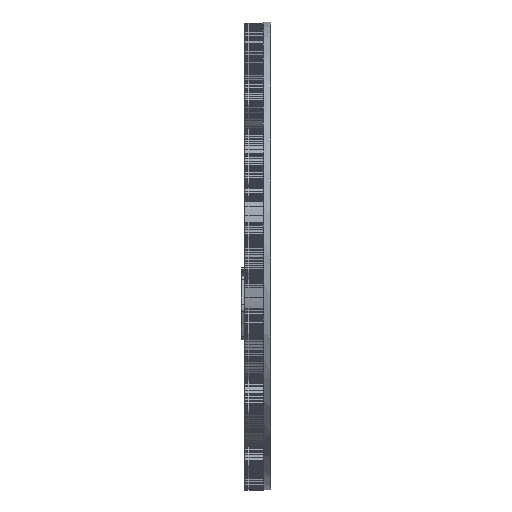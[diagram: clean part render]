
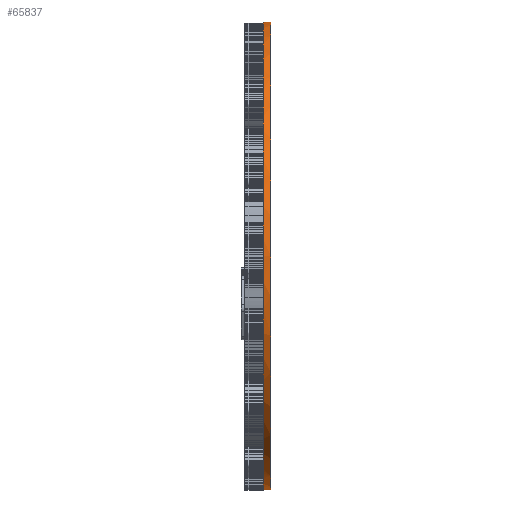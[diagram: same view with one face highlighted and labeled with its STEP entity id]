
A CAD part, left-side view. The second image highlights one B-rep face of the part: STEP entity #65837.
In plain terms, the highlighted cylindrical face has radius 63.25 mm (diameter 126.5 mm), a full revolution.
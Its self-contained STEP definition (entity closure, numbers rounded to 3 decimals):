
#3466=FACE_OUTER_BOUND('',#6824,.T.);
#6824=EDGE_LOOP('',(#50315,#50316,#50317,#50318,#50319,#50320,#50321,#50322,
#50323,#50324,#50325,#50326,#50327,#50328,#50329,#50330,#50331,#50332,#50333,
#50334,#50335,#50336,#50337,#50338));
#9988=CIRCLE('',#69131,63.25);
#9997=CIRCLE('',#69140,63.25);
#9999=CIRCLE('',#69142,63.25);
#10000=CIRCLE('',#69143,63.25);
#10009=CIRCLE('',#69152,63.25);
#10063=CIRCLE('',#69207,63.25);
#10066=CIRCLE('',#69211,63.25);
#10072=CIRCLE('',#69218,63.25);
#10076=CIRCLE('',#69223,63.25);
#10077=CIRCLE('',#69225,63.25);
#10078=CIRCLE('',#69227,63.25);
#10079=CIRCLE('',#69229,63.25);
#10080=CIRCLE('',#69230,63.25);
#10081=CIRCLE('',#69231,63.25);
#10082=CIRCLE('',#69232,63.25);
#10083=CIRCLE('',#69233,63.25);
#10084=CIRCLE('',#69234,63.25);
#10085=CIRCLE('',#69235,63.25);
#10086=CIRCLE('',#69236,63.25);
#10087=CIRCLE('',#69237,63.25);
#10088=CIRCLE('',#69238,63.25);
#10089=CIRCLE('',#69239,63.25);
#14084=LINE('',#99940,#23541);
#23541=VECTOR('',#76640,63.25);
#30162=VERTEX_POINT('',#93938);
#30213=VERTEX_POINT('',#94040);
#30214=VERTEX_POINT('',#94042);
#30566=VERTEX_POINT('',#94746);
#30567=VERTEX_POINT('',#94748);
#30614=VERTEX_POINT('',#94842);
#30615=VERTEX_POINT('',#94844);
#30616=VERTEX_POINT('',#94846);
#31111=VERTEX_POINT('',#95836);
#32948=VERTEX_POINT('',#99512);
#32950=VERTEX_POINT('',#99515);
#33012=VERTEX_POINT('',#99641);
#33014=VERTEX_POINT('',#99644);
#33068=VERTEX_POINT('',#99753);
#33069=VERTEX_POINT('',#99755);
#33071=VERTEX_POINT('',#99760);
#33142=VERTEX_POINT('',#99902);
#33144=VERTEX_POINT('',#99907);
#33151=VERTEX_POINT('',#99921);
#33153=VERTEX_POINT('',#99926);
#33157=VERTEX_POINT('',#99934);
#33158=VERTEX_POINT('',#99938);
#36970=EDGE_CURVE('',#30214,#30213,#9988,.T.);
#37323=EDGE_CURVE('',#30567,#30566,#9997,.T.);
#37371=EDGE_CURVE('',#30615,#30614,#9999,.T.);
#37372=EDGE_CURVE('',#30616,#30615,#10000,.T.);
#37868=EDGE_CURVE('',#30162,#31111,#10009,.T.);
#39706=EDGE_CURVE('',#32950,#32948,#10063,.T.);
#39770=EDGE_CURVE('',#33014,#33012,#10066,.T.);
#39826=EDGE_CURVE('',#33068,#33069,#10072,.T.);
#39899=EDGE_CURVE('',#33071,#33142,#10076,.T.);
#39908=EDGE_CURVE('',#33144,#33151,#10077,.T.);
#39914=EDGE_CURVE('',#33153,#33157,#10078,.T.);
#39915=EDGE_CURVE('',#33158,#33158,#10079,.T.);
#39916=EDGE_CURVE('',#33158,#30615,#14084,.T.);
#39917=EDGE_CURVE('',#33153,#30614,#10080,.T.);
#39918=EDGE_CURVE('',#30567,#33157,#10081,.T.);
#39919=EDGE_CURVE('',#32950,#30566,#10082,.T.);
#39920=EDGE_CURVE('',#33014,#32948,#10083,.T.);
#39921=EDGE_CURVE('',#30214,#33012,#10084,.T.);
#39922=EDGE_CURVE('',#30162,#30213,#10085,.T.);
#39923=EDGE_CURVE('',#33144,#31111,#10086,.T.);
#39924=EDGE_CURVE('',#33071,#33151,#10087,.T.);
#39925=EDGE_CURVE('',#33068,#33142,#10088,.T.);
#39926=EDGE_CURVE('',#30616,#33069,#10089,.T.);
#50315=ORIENTED_EDGE('',*,*,#39915,.F.);
#50316=ORIENTED_EDGE('',*,*,#39916,.T.);
#50317=ORIENTED_EDGE('',*,*,#37371,.T.);
#50318=ORIENTED_EDGE('',*,*,#39917,.F.);
#50319=ORIENTED_EDGE('',*,*,#39914,.T.);
#50320=ORIENTED_EDGE('',*,*,#39918,.F.);
#50321=ORIENTED_EDGE('',*,*,#37323,.T.);
#50322=ORIENTED_EDGE('',*,*,#39919,.F.);
#50323=ORIENTED_EDGE('',*,*,#39706,.T.);
#50324=ORIENTED_EDGE('',*,*,#39920,.F.);
#50325=ORIENTED_EDGE('',*,*,#39770,.T.);
#50326=ORIENTED_EDGE('',*,*,#39921,.F.);
#50327=ORIENTED_EDGE('',*,*,#36970,.T.);
#50328=ORIENTED_EDGE('',*,*,#39922,.F.);
#50329=ORIENTED_EDGE('',*,*,#37868,.T.);
#50330=ORIENTED_EDGE('',*,*,#39923,.F.);
#50331=ORIENTED_EDGE('',*,*,#39908,.T.);
#50332=ORIENTED_EDGE('',*,*,#39924,.F.);
#50333=ORIENTED_EDGE('',*,*,#39899,.T.);
#50334=ORIENTED_EDGE('',*,*,#39925,.F.);
#50335=ORIENTED_EDGE('',*,*,#39826,.T.);
#50336=ORIENTED_EDGE('',*,*,#39926,.F.);
#50337=ORIENTED_EDGE('',*,*,#37372,.T.);
#50338=ORIENTED_EDGE('',*,*,#39916,.F.);
#65549=CYLINDRICAL_SURFACE('',#69228,63.25);
#65837=ADVANCED_FACE('',(#3466),#65549,.T.);
#69131=AXIS2_PLACEMENT_3D('',#94043,#73588,#73589);
#69140=AXIS2_PLACEMENT_3D('',#94749,#73950,#73951);
#69142=AXIS2_PLACEMENT_3D('',#94845,#74000,#74001);
#69143=AXIS2_PLACEMENT_3D('',#94847,#74002,#74003);
#69152=AXIS2_PLACEMENT_3D('',#95838,#74507,#74508);
#69207=AXIS2_PLACEMENT_3D('',#99516,#76401,#76402);
#69211=AXIS2_PLACEMENT_3D('',#99645,#76470,#76471);
#69218=AXIS2_PLACEMENT_3D('',#99757,#76534,#76535);
#69223=AXIS2_PLACEMENT_3D('',#99904,#76613,#76614);
#69225=AXIS2_PLACEMENT_3D('',#99923,#76625,#76626);
#69227=AXIS2_PLACEMENT_3D('',#99936,#76634,#76635);
#69228=AXIS2_PLACEMENT_3D('',#99937,#76636,#76637);
#69229=AXIS2_PLACEMENT_3D('',#99939,#76638,#76639);
#69230=AXIS2_PLACEMENT_3D('',#99941,#76641,#76642);
#69231=AXIS2_PLACEMENT_3D('',#99942,#76643,#76644);
#69232=AXIS2_PLACEMENT_3D('',#99943,#76645,#76646);
#69233=AXIS2_PLACEMENT_3D('',#99944,#76647,#76648);
#69234=AXIS2_PLACEMENT_3D('',#99945,#76649,#76650);
#69235=AXIS2_PLACEMENT_3D('',#99946,#76651,#76652);
#69236=AXIS2_PLACEMENT_3D('',#99947,#76653,#76654);
#69237=AXIS2_PLACEMENT_3D('',#99948,#76655,#76656);
#69238=AXIS2_PLACEMENT_3D('',#99949,#76657,#76658);
#69239=AXIS2_PLACEMENT_3D('',#99950,#76659,#76660);
#73588=DIRECTION('center_axis',(0.,-1.,0.));
#73589=DIRECTION('ref_axis',(1.,0.,0.));
#73950=DIRECTION('center_axis',(0.,-1.,0.));
#73951=DIRECTION('ref_axis',(1.,0.,0.));
#74000=DIRECTION('center_axis',(0.,-1.,0.));
#74001=DIRECTION('ref_axis',(1.,0.,0.));
#74002=DIRECTION('center_axis',(0.,-1.,0.));
#74003=DIRECTION('ref_axis',(1.,0.,0.));
#74507=DIRECTION('center_axis',(0.,-1.,0.));
#74508=DIRECTION('ref_axis',(1.,0.,0.));
#76401=DIRECTION('center_axis',(0.,-1.,0.));
#76402=DIRECTION('ref_axis',(1.,0.,0.));
#76470=DIRECTION('center_axis',(0.,-1.,0.));
#76471=DIRECTION('ref_axis',(1.,0.,0.));
#76534=DIRECTION('center_axis',(0.,-1.,0.));
#76535=DIRECTION('ref_axis',(1.,0.,0.));
#76613=DIRECTION('center_axis',(0.,-1.,0.));
#76614=DIRECTION('ref_axis',(1.,0.,0.));
#76625=DIRECTION('center_axis',(0.,-1.,0.));
#76626=DIRECTION('ref_axis',(1.,0.,0.));
#76634=DIRECTION('center_axis',(0.,-1.,0.));
#76635=DIRECTION('ref_axis',(1.,0.,0.));
#76636=DIRECTION('center_axis',(0.,-1.,0.));
#76637=DIRECTION('ref_axis',(1.,0.,0.));
#76638=DIRECTION('center_axis',(0.,-1.,0.));
#76639=DIRECTION('ref_axis',(1.,0.,0.));
#76640=DIRECTION('',(0.,1.,0.));
#76641=DIRECTION('center_axis',(0.,1.,0.));
#76642=DIRECTION('ref_axis',(1.,0.,0.));
#76643=DIRECTION('center_axis',(0.,1.,0.));
#76644=DIRECTION('ref_axis',(1.,0.,0.));
#76645=DIRECTION('center_axis',(0.,1.,0.));
#76646=DIRECTION('ref_axis',(1.,0.,0.));
#76647=DIRECTION('center_axis',(0.,1.,0.));
#76648=DIRECTION('ref_axis',(1.,0.,0.));
#76649=DIRECTION('center_axis',(0.,1.,0.));
#76650=DIRECTION('ref_axis',(1.,0.,0.));
#76651=DIRECTION('center_axis',(0.,1.,0.));
#76652=DIRECTION('ref_axis',(1.,0.,0.));
#76653=DIRECTION('center_axis',(0.,1.,0.));
#76654=DIRECTION('ref_axis',(1.,0.,0.));
#76655=DIRECTION('center_axis',(0.,1.,0.));
#76656=DIRECTION('ref_axis',(1.,0.,0.));
#76657=DIRECTION('center_axis',(0.,1.,0.));
#76658=DIRECTION('ref_axis',(1.,0.,0.));
#76659=DIRECTION('center_axis',(0.,1.,0.));
#76660=DIRECTION('ref_axis',(1.,0.,0.));
#93938=CARTESIAN_POINT('',(-33.291,0.,107.033));
#94040=CARTESIAN_POINT('',(-36.563,0.,99.126));
#94042=CARTESIAN_POINT('',(-45.426,0.,85.801));
#94043=CARTESIAN_POINT('Origin',(-93.237,0.,127.21));
#94746=CARTESIAN_POINT('',(-96.579,0.,64.048));
#94748=CARTESIAN_POINT('',(-113.013,0.,67.131));
#94749=CARTESIAN_POINT('Origin',(-93.237,0.,127.21));
#94842=CARTESIAN_POINT('',(-120.818,0.,70.29));
#94844=CARTESIAN_POINT('',(-156.487,0.,127.21));
#94845=CARTESIAN_POINT('Origin',(-93.237,0.,127.21));
#94846=CARTESIAN_POINT('',(-36.251,0.,154.654));
#94847=CARTESIAN_POINT('Origin',(-93.237,0.,127.21));
#95836=CARTESIAN_POINT('',(-30.109,0.,123.28));
#95838=CARTESIAN_POINT('Origin',(-93.237,0.,127.21));
#99512=CARTESIAN_POINT('',(-72.764,0.,67.365));
#99515=CARTESIAN_POINT('',(-88.797,0.,64.116));
#99516=CARTESIAN_POINT('Origin',(-93.237,0.,127.21));
#99641=CARTESIAN_POINT('',(-51.523,0.,79.665));
#99644=CARTESIAN_POINT('',(-64.831,0.,70.697));
#99645=CARTESIAN_POINT('Origin',(-93.237,0.,127.21));
#99753=CARTESIAN_POINT('',(-33.977,0.,149.319));
#99755=CARTESIAN_POINT('',(-35.456,0.,152.938));
#99757=CARTESIAN_POINT('Origin',(-93.237,0.,127.21));
#99760=CARTESIAN_POINT('',(-30.132,0.,131.498));
#99902=CARTESIAN_POINT('',(-33.309,0.,147.437));
#99904=CARTESIAN_POINT('Origin',(-93.237,0.,127.21));
#99907=CARTESIAN_POINT('',(-30.055,0.,124.272));
#99921=CARTESIAN_POINT('',(-30.025,0.,129.416));
#99923=CARTESIAN_POINT('Origin',(-93.237,0.,127.21));
#99926=CARTESIAN_POINT('',(-116.758,0.,68.496));
#99934=CARTESIAN_POINT('',(-115.634,0.,68.058));
#99936=CARTESIAN_POINT('Origin',(-93.237,0.,127.21));
#99937=CARTESIAN_POINT('Origin',(-93.237,0.,127.21));
#99938=CARTESIAN_POINT('',(-156.487,-2.,127.21));
#99939=CARTESIAN_POINT('Origin',(-93.237,-2.,127.21));
#99940=CARTESIAN_POINT('',(-156.487,0.,127.21));
#99941=CARTESIAN_POINT('Origin',(-93.237,0.,127.21));
#99942=CARTESIAN_POINT('Origin',(-93.237,0.,127.21));
#99943=CARTESIAN_POINT('Origin',(-93.237,0.,127.21));
#99944=CARTESIAN_POINT('Origin',(-93.237,0.,127.21));
#99945=CARTESIAN_POINT('Origin',(-93.237,0.,127.21));
#99946=CARTESIAN_POINT('Origin',(-93.237,0.,127.21));
#99947=CARTESIAN_POINT('Origin',(-93.237,0.,127.21));
#99948=CARTESIAN_POINT('Origin',(-93.237,0.,127.21));
#99949=CARTESIAN_POINT('Origin',(-93.237,0.,127.21));
#99950=CARTESIAN_POINT('Origin',(-93.237,0.,127.21));
